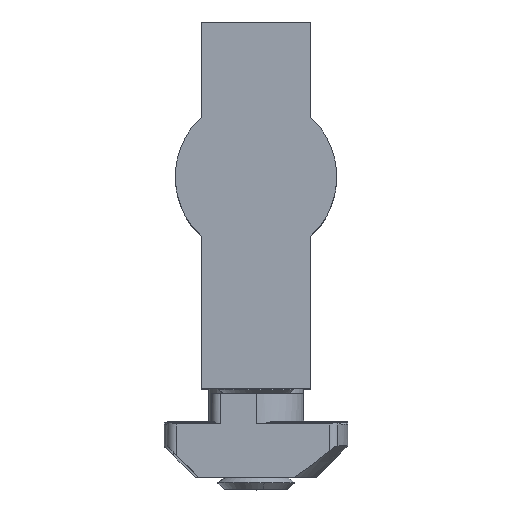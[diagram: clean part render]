
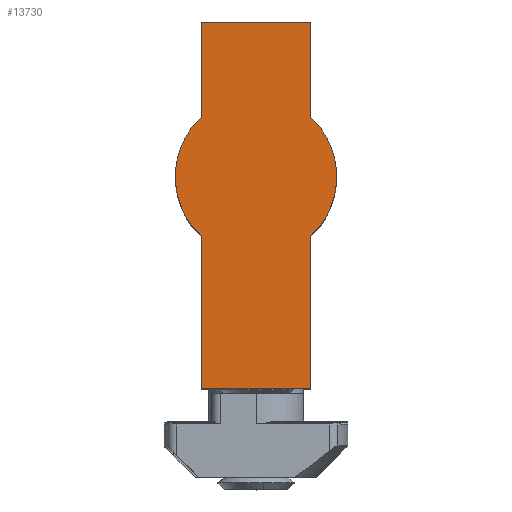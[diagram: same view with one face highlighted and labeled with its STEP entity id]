
A CAD part, top view. The second image highlights one B-rep face of the part: STEP entity #13730.
In plain terms, the highlighted planar face has unit normal (0, 0, 1).
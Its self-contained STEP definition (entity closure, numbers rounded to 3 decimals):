
#143 = ORIENTED_EDGE ( 'NONE', *, *, #12471, .T. ) ;
#461 = EDGE_CURVE ( 'NONE', #763, #744, #6057, .T. ) ;
#526 = DIRECTION ( 'NONE',  ( 1., 0., 0. ) ) ;
#744 = VERTEX_POINT ( 'NONE', #6550 ) ;
#763 = VERTEX_POINT ( 'NONE', #6485 ) ;
#776 = VECTOR ( 'NONE', #7277, 1000. ) ;
#921 = VERTEX_POINT ( 'NONE', #12197 ) ;
#924 = EDGE_CURVE ( 'NONE', #12822, #763, #3640, .T. ) ;
#954 = VERTEX_POINT ( 'NONE', #2779 ) ;
#1276 = VECTOR ( 'NONE', #526, 1000. ) ;
#1289 = ORIENTED_EDGE ( 'NONE', *, *, #924, .T. ) ;
#1531 = CARTESIAN_POINT ( 'NONE',  ( 5.75, 6.26, 1.5 ) ) ;
#2251 = LINE ( 'NONE', #8573, #8947 ) ;
#2285 = DIRECTION ( 'NONE',  ( 0., 0., 1. ) ) ;
#2415 = EDGE_LOOP ( 'NONE', ( #12641, #143, #1289, #7762, #6366, #3966, #6549, #7718, #12888 ) ) ;
#2656 = CARTESIAN_POINT ( 'NONE',  ( -5.75, -16.26, 1.5 ) ) ;
#2779 = CARTESIAN_POINT ( 'NONE',  ( 5.75, -6.26, 1.5 ) ) ;
#2979 = CARTESIAN_POINT ( 'NONE',  ( -8.5, 0., 1.5 ) ) ;
#3202 = DIRECTION ( 'NONE',  ( 1., 0., 0. ) ) ;
#3255 = DIRECTION ( 'NONE',  ( 0., 0., 1. ) ) ;
#3640 = LINE ( 'NONE', #8978, #11619 ) ;
#3966 = ORIENTED_EDGE ( 'NONE', *, *, #4040, .T. ) ;
#4040 = EDGE_CURVE ( 'NONE', #954, #11514, #12047, .T. ) ;
#4380 = DIRECTION ( 'NONE',  ( 0., 1., 0. ) ) ;
#4398 = CIRCLE ( 'NONE', #12817, 8.5 ) ;
#4794 = DIRECTION ( 'NONE',  ( 0., 1., 0. ) ) ;
#4868 = LINE ( 'NONE', #9200, #11456 ) ;
#5037 = VERTEX_POINT ( 'NONE', #10113 ) ;
#5930 = CARTESIAN_POINT ( 'NONE',  ( -5.75, -6.26, 1.5 ) ) ;
#6057 = LINE ( 'NONE', #2656, #1276 ) ;
#6197 = VECTOR ( 'NONE', #4794, 1000. ) ;
#6278 = CARTESIAN_POINT ( 'NONE',  ( -5.75, 6.26, 1.5 ) ) ;
#6364 = CARTESIAN_POINT ( 'NONE',  ( 0., 0., 1.5 ) ) ;
#6366 = ORIENTED_EDGE ( 'NONE', *, *, #12675, .T. ) ;
#6485 = CARTESIAN_POINT ( 'NONE',  ( -5.75, -16.26, 1.5 ) ) ;
#6549 = ORIENTED_EDGE ( 'NONE', *, *, #10842, .T. ) ;
#6550 = CARTESIAN_POINT ( 'NONE',  ( 5.75, -16.26, 1.5 ) ) ;
#6769 = DIRECTION ( 'NONE',  ( 0., -1., 0. ) ) ;
#7277 = DIRECTION ( 'NONE',  ( 0., -1., 0. ) ) ;
#7502 = DIRECTION ( 'NONE',  ( 0., 0., 1. ) ) ;
#7718 = ORIENTED_EDGE ( 'NONE', *, *, #11180, .T. ) ;
#7720 = AXIS2_PLACEMENT_3D ( 'NONE', #13014, #3255, #11949 ) ;
#7762 = ORIENTED_EDGE ( 'NONE', *, *, #461, .T. ) ;
#8290 = DIRECTION ( 'NONE',  ( 1., 0., 0. ) ) ;
#8573 = CARTESIAN_POINT ( 'NONE',  ( 5.75, -16.26, 1.5 ) ) ;
#8947 = VECTOR ( 'NONE', #4380, 1000. ) ;
#8978 = CARTESIAN_POINT ( 'NONE',  ( -5.75, -6.26, 1.5 ) ) ;
#9200 = CARTESIAN_POINT ( 'NONE',  ( -5.75, 22.26, 1.5 ) ) ;
#9611 = FACE_OUTER_BOUND ( 'NONE', #2415, .T. ) ;
#9924 = DIRECTION ( 'NONE',  ( 1., 0., 0. ) ) ;
#10113 = CARTESIAN_POINT ( 'NONE',  ( -5.75, 6.26, 1.5 ) ) ;
#10724 = DIRECTION ( 'NONE',  ( 0., 0., 1. ) ) ;
#10810 = EDGE_CURVE ( 'NONE', #5037, #11499, #11910, .T. ) ;
#10835 = CARTESIAN_POINT ( 'NONE',  ( 0., 0., 1.5 ) ) ;
#10842 = EDGE_CURVE ( 'NONE', #11514, #921, #12142, .T. ) ;
#10900 = PLANE ( 'NONE',  #12065 ) ;
#11180 = EDGE_CURVE ( 'NONE', #921, #12005, #4868, .T. ) ;
#11456 = VECTOR ( 'NONE', #13550, 1000. ) ;
#11499 = VERTEX_POINT ( 'NONE', #2979 ) ;
#11514 = VERTEX_POINT ( 'NONE', #13948 ) ;
#11619 = VECTOR ( 'NONE', #6769, 1000. ) ;
#11910 = CIRCLE ( 'NONE', #13030, 8.5 ) ;
#11949 = DIRECTION ( 'NONE',  ( 1., 0., 0. ) ) ;
#12005 = VERTEX_POINT ( 'NONE', #13680 ) ;
#12047 = CIRCLE ( 'NONE', #7720, 8.5 ) ;
#12065 = AXIS2_PLACEMENT_3D ( 'NONE', #10835, #2285, #3202 ) ;
#12142 = LINE ( 'NONE', #1531, #6197 ) ;
#12197 = CARTESIAN_POINT ( 'NONE',  ( 5.75, 22.26, 1.5 ) ) ;
#12471 = EDGE_CURVE ( 'NONE', #11499, #12822, #4398, .T. ) ;
#12641 = ORIENTED_EDGE ( 'NONE', *, *, #10810, .T. ) ;
#12675 = EDGE_CURVE ( 'NONE', #744, #954, #2251, .T. ) ;
#12817 = AXIS2_PLACEMENT_3D ( 'NONE', #13704, #10724, #8290 ) ;
#12822 = VERTEX_POINT ( 'NONE', #5930 ) ;
#12888 = ORIENTED_EDGE ( 'NONE', *, *, #13036, .T. ) ;
#13014 = CARTESIAN_POINT ( 'NONE',  ( 0., 0., 1.5 ) ) ;
#13030 = AXIS2_PLACEMENT_3D ( 'NONE', #6364, #7502, #9924 ) ;
#13036 = EDGE_CURVE ( 'NONE', #12005, #5037, #13754, .T. ) ;
#13550 = DIRECTION ( 'NONE',  ( -1., 0., 0. ) ) ;
#13680 = CARTESIAN_POINT ( 'NONE',  ( -5.75, 22.26, 1.5 ) ) ;
#13704 = CARTESIAN_POINT ( 'NONE',  ( 0., 0., 1.5 ) ) ;
#13730 = ADVANCED_FACE ( 'NONE', ( #9611 ), #10900, .T. ) ;
#13754 = LINE ( 'NONE', #6278, #776 ) ;
#13948 = CARTESIAN_POINT ( 'NONE',  ( 5.75, 6.26, 1.5 ) ) ;
